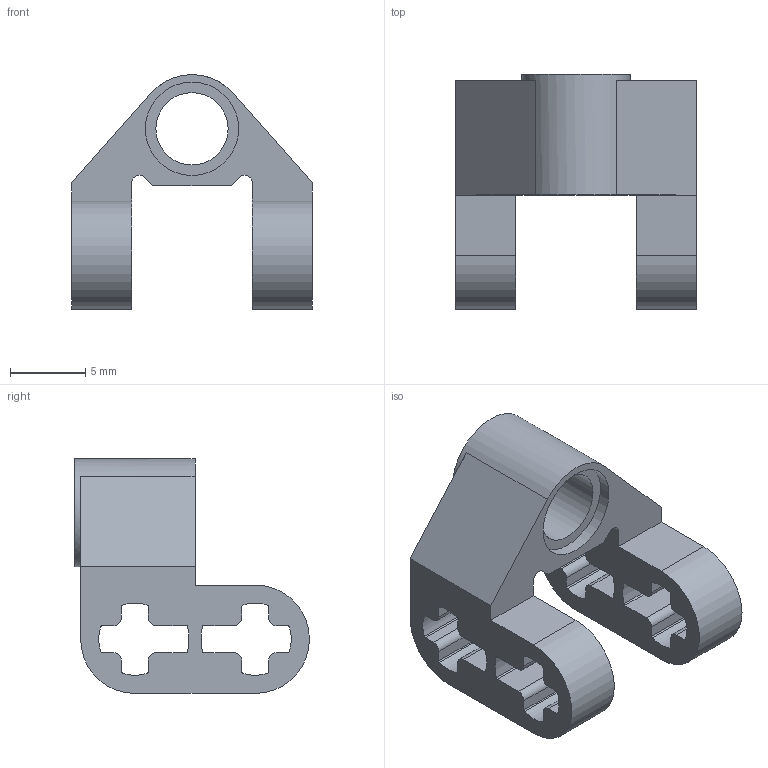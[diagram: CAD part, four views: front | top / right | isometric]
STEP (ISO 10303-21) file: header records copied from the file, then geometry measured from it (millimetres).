
FILE_DESCRIPTION(/* description */ ('Unknown'),/* implementation_level */ '2;1');
FILE_NAME(/* name */ 'Black_4610371_AVV',/* time_stamp */ '2025-07-21T23:47:53+02:00',/* author */ ('Unknown'),/* organization */ ('Unknown'),/* preprocessor_version */ 'ST-DEVELOPER v19.4',/* originating_system */ 'Solid Edge',/* authorisation */ 'Unknown');
FILE_SCHEMA (('AUTOMOTIVE_DESIGN {1 0 10303 214 3 1 1}'));
Length unit declared in the file: millimetre
Products named in the file (1): Black_4610371_AVV
Bounding box: 16 x 15.6 x 15.6 mm (x, y, z)
Volume: 998.8 mm3; surface area: 1378.9 mm2
Topology: 1 solids, 1 shells, 124 faces, 360 edges, 240 vertices
Faces by surface type: cylinder 74, plane 50
Full cylindrical faces by diameter (mm): 4.8 x1, 6.2 x2, 7.2 x1
Entity records: 4174 total; most frequent: DIRECTION 754, CARTESIAN_POINT 719, ORIENTED_EDGE 710, EDGE_CURVE 355, AXIS2_PLACEMENT_3D 274, VERTEX_POINT 239, LINE 206, VECTOR 206
